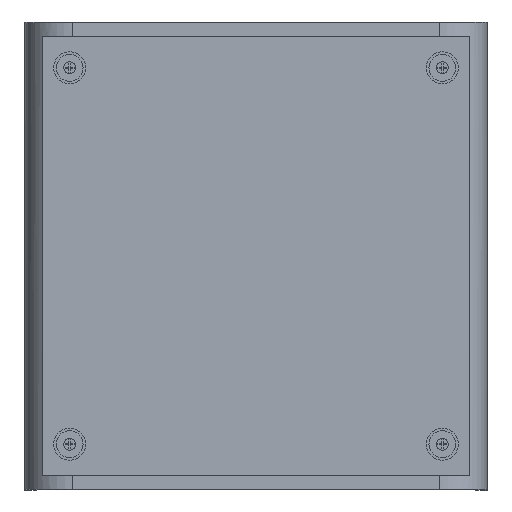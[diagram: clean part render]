
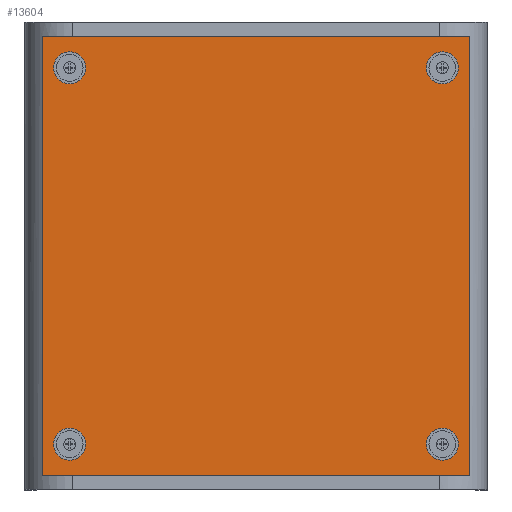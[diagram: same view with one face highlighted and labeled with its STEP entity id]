
A CAD part, front view. The second image highlights one B-rep face of the part: STEP entity #13604.
In plain terms, the highlighted planar face has unit normal (0, -1, 0).
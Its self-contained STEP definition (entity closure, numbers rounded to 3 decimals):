
#335 = FACE_BOUND ( 'NONE', #6173, .T. ) ;
#478 = CARTESIAN_POINT ( 'NONE',  ( -71.75, -35.5, 73.5 ) ) ;
#1108 = CARTESIAN_POINT ( 'NONE',  ( 62.525, -35.5, -63.125 ) ) ;
#1210 = CARTESIAN_POINT ( 'NONE',  ( -71.75, -35.5, -73.5 ) ) ;
#2225 = ORIENTED_EDGE ( 'NONE', *, *, #8759, .F. ) ;
#2299 = DIRECTION ( 'NONE',  ( 0., -1., 0. ) ) ;
#2539 = VERTEX_POINT ( 'NONE', #16618 ) ;
#2917 = DIRECTION ( 'NONE',  ( 0., 0., 1. ) ) ;
#3104 = CIRCLE ( 'NONE', #9706, 5.375 ) ;
#3151 = CARTESIAN_POINT ( 'NONE',  ( 62.525, -35.5, 68.5 ) ) ;
#3456 = CARTESIAN_POINT ( 'NONE',  ( 62.525, -35.5, 57.75 ) ) ;
#3921 = EDGE_LOOP ( 'NONE', ( #16689, #8893 ) ) ;
#4343 = CIRCLE ( 'NONE', #16237, 5.375 ) ;
#4437 = CARTESIAN_POINT ( 'NONE',  ( 62.525, -35.5, 63.125 ) ) ;
#4444 = ORIENTED_EDGE ( 'NONE', *, *, #5673, .F. ) ;
#4713 = VECTOR ( 'NONE', #10633, 1000. ) ;
#4806 = CARTESIAN_POINT ( 'NONE',  ( -62.525, -35.5, 63.125 ) ) ;
#4906 = VECTOR ( 'NONE', #10974, 1000. ) ;
#5180 = FACE_BOUND ( 'NONE', #9841, .T. ) ;
#5240 = DIRECTION ( 'NONE',  ( 0., 1., 0. ) ) ;
#5255 = LINE ( 'NONE', #17825, #4713 ) ;
#5458 = EDGE_CURVE ( 'NONE', #16799, #16684, #15736, .T. ) ;
#5673 = EDGE_CURVE ( 'NONE', #23021, #10319, #15454, .T. ) ;
#5712 = CARTESIAN_POINT ( 'NONE',  ( 71.75, -35.5, -73.5 ) ) ;
#6099 = CIRCLE ( 'NONE', #18549, 5.375 ) ;
#6173 = EDGE_LOOP ( 'NONE', ( #16119, #15133 ) ) ;
#6229 = DIRECTION ( 'NONE',  ( 0., 0., 1. ) ) ;
#6273 = ORIENTED_EDGE ( 'NONE', *, *, #15498, .F. ) ;
#6456 = DIRECTION ( 'NONE',  ( 0., -1., 0. ) ) ;
#6508 = ORIENTED_EDGE ( 'NONE', *, *, #5458, .F. ) ;
#6764 = DIRECTION ( 'NONE',  ( 0., -1., 0. ) ) ;
#7343 = CARTESIAN_POINT ( 'NONE',  ( -62.525, -35.5, -68.5 ) ) ;
#7467 = CIRCLE ( 'NONE', #21662, 5.375 ) ;
#7515 = DIRECTION ( 'NONE',  ( 1., 0., 0. ) ) ;
#7592 = ORIENTED_EDGE ( 'NONE', *, *, #9450, .F. ) ;
#7717 = CARTESIAN_POINT ( 'NONE',  ( -62.525, -35.5, 57.75 ) ) ;
#8032 = DIRECTION ( 'NONE',  ( 0., -1., 0. ) ) ;
#8268 = AXIS2_PLACEMENT_3D ( 'NONE', #17543, #6764, #19374 ) ;
#8742 = CARTESIAN_POINT ( 'NONE',  ( 62.525, -35.5, 63.125 ) ) ;
#8759 = EDGE_CURVE ( 'NONE', #10424, #2539, #7467, .T. ) ;
#8893 = ORIENTED_EDGE ( 'NONE', *, *, #18322, .F. ) ;
#9350 = CARTESIAN_POINT ( 'NONE',  ( 62.525, -35.5, -68.5 ) ) ;
#9450 = EDGE_CURVE ( 'NONE', #12828, #23021, #19285, .T. ) ;
#9488 = EDGE_CURVE ( 'NONE', #2539, #10424, #4343, .T. ) ;
#9686 = CARTESIAN_POINT ( 'NONE',  ( 62.525, -35.5, -63.125 ) ) ;
#9706 = AXIS2_PLACEMENT_3D ( 'NONE', #9686, #22316, #11502 ) ;
#9841 = EDGE_LOOP ( 'NONE', ( #10297, #2225 ) ) ;
#9967 = VERTEX_POINT ( 'NONE', #16000 ) ;
#10297 = ORIENTED_EDGE ( 'NONE', *, *, #9488, .F. ) ;
#10319 = VERTEX_POINT ( 'NONE', #13124 ) ;
#10424 = VERTEX_POINT ( 'NONE', #7717 ) ;
#10495 = FACE_BOUND ( 'NONE', #3921, .T. ) ;
#10633 = DIRECTION ( 'NONE',  ( -1., 0., 0. ) ) ;
#10724 = VERTEX_POINT ( 'NONE', #12410 ) ;
#10974 = DIRECTION ( 'NONE',  ( 0., 0., 1. ) ) ;
#11502 = DIRECTION ( 'NONE',  ( 0., 0., 1. ) ) ;
#11865 = VERTEX_POINT ( 'NONE', #19985 ) ;
#12410 = CARTESIAN_POINT ( 'NONE',  ( 62.525, -35.5, -57.75 ) ) ;
#12620 = EDGE_CURVE ( 'NONE', #11865, #14340, #6099, .T. ) ;
#12828 = VERTEX_POINT ( 'NONE', #1210 ) ;
#12987 = AXIS2_PLACEMENT_3D ( 'NONE', #8742, #2299, #21361 ) ;
#13124 = CARTESIAN_POINT ( 'NONE',  ( 71.75, -35.5, 73.5 ) ) ;
#13506 = EDGE_CURVE ( 'NONE', #14340, #11865, #22395, .T. ) ;
#13604 = ADVANCED_FACE ( 'NONE', ( #335, #10495, #14773, #5180, #19011 ), #23173, .F. ) ;
#13737 = DIRECTION ( 'NONE',  ( 0., -1., 0. ) ) ;
#14226 = AXIS2_PLACEMENT_3D ( 'NONE', #1108, #13737, #2917 ) ;
#14340 = VERTEX_POINT ( 'NONE', #7343 ) ;
#14634 = DIRECTION ( 'NONE',  ( 0., -1., 0. ) ) ;
#14773 = FACE_OUTER_BOUND ( 'NONE', #19188, .T. ) ;
#14882 = VECTOR ( 'NONE', #7515, 1000. ) ;
#14907 = VERTEX_POINT ( 'NONE', #9350 ) ;
#14960 = VECTOR ( 'NONE', #21962, 1000. ) ;
#15088 = EDGE_LOOP ( 'NONE', ( #19094, #6508 ) ) ;
#15133 = ORIENTED_EDGE ( 'NONE', *, *, #13506, .F. ) ;
#15430 = CIRCLE ( 'NONE', #14226, 5.375 ) ;
#15454 = LINE ( 'NONE', #16496, #14882 ) ;
#15498 = EDGE_CURVE ( 'NONE', #10319, #9967, #18637, .T. ) ;
#15736 = CIRCLE ( 'NONE', #12987, 5.375 ) ;
#16000 = CARTESIAN_POINT ( 'NONE',  ( 71.75, -35.5, -73.5 ) ) ;
#16043 = CARTESIAN_POINT ( 'NONE',  ( 0., -35.5, 0. ) ) ;
#16119 = ORIENTED_EDGE ( 'NONE', *, *, #12620, .F. ) ;
#16237 = AXIS2_PLACEMENT_3D ( 'NONE', #17236, #6456, #19067 ) ;
#16294 = CIRCLE ( 'NONE', #17766, 5.375 ) ;
#16496 = CARTESIAN_POINT ( 'NONE',  ( -71.75, -35.5, 73.5 ) ) ;
#16618 = CARTESIAN_POINT ( 'NONE',  ( -62.525, -35.5, 68.5 ) ) ;
#16684 = VERTEX_POINT ( 'NONE', #3151 ) ;
#16689 = ORIENTED_EDGE ( 'NONE', *, *, #18705, .F. ) ;
#16799 = VERTEX_POINT ( 'NONE', #3456 ) ;
#17011 = DIRECTION ( 'NONE',  ( 0., -1., 0. ) ) ;
#17236 = CARTESIAN_POINT ( 'NONE',  ( -62.525, -35.5, 63.125 ) ) ;
#17543 = CARTESIAN_POINT ( 'NONE',  ( -62.525, -35.5, -63.125 ) ) ;
#17766 = AXIS2_PLACEMENT_3D ( 'NONE', #4437, #17011, #6229 ) ;
#17825 = CARTESIAN_POINT ( 'NONE',  ( -71.75, -35.5, -73.5 ) ) ;
#17839 = DIRECTION ( 'NONE',  ( 0., 0., 1. ) ) ;
#18322 = EDGE_CURVE ( 'NONE', #14907, #10724, #15430, .T. ) ;
#18346 = CARTESIAN_POINT ( 'NONE',  ( -71.75, -35.5, -73.5 ) ) ;
#18385 = EDGE_CURVE ( 'NONE', #9967, #12828, #5255, .T. ) ;
#18549 = AXIS2_PLACEMENT_3D ( 'NONE', #18840, #8032, #20652 ) ;
#18637 = LINE ( 'NONE', #5712, #14960 ) ;
#18705 = EDGE_CURVE ( 'NONE', #10724, #14907, #3104, .T. ) ;
#18840 = CARTESIAN_POINT ( 'NONE',  ( -62.525, -35.5, -63.125 ) ) ;
#19011 = FACE_BOUND ( 'NONE', #15088, .T. ) ;
#19067 = DIRECTION ( 'NONE',  ( 0., 0., 1. ) ) ;
#19094 = ORIENTED_EDGE ( 'NONE', *, *, #20607, .F. ) ;
#19188 = EDGE_LOOP ( 'NONE', ( #7592, #21606, #6273, #4444 ) ) ;
#19285 = LINE ( 'NONE', #18346, #4906 ) ;
#19374 = DIRECTION ( 'NONE',  ( 0., 0., 1. ) ) ;
#19985 = CARTESIAN_POINT ( 'NONE',  ( -62.525, -35.5, -57.75 ) ) ;
#20607 = EDGE_CURVE ( 'NONE', #16684, #16799, #16294, .T. ) ;
#20652 = DIRECTION ( 'NONE',  ( 0., 0., 1. ) ) ;
#21361 = DIRECTION ( 'NONE',  ( 0., 0., 1. ) ) ;
#21606 = ORIENTED_EDGE ( 'NONE', *, *, #18385, .F. ) ;
#21662 = AXIS2_PLACEMENT_3D ( 'NONE', #4806, #14634, #22740 ) ;
#21962 = DIRECTION ( 'NONE',  ( 0., 0., -1. ) ) ;
#22316 = DIRECTION ( 'NONE',  ( 0., -1., 0. ) ) ;
#22395 = CIRCLE ( 'NONE', #8268, 5.375 ) ;
#22740 = DIRECTION ( 'NONE',  ( 0., 0., 1. ) ) ;
#22767 = AXIS2_PLACEMENT_3D ( 'NONE', #16043, #5240, #17839 ) ;
#23021 = VERTEX_POINT ( 'NONE', #478 ) ;
#23173 = PLANE ( 'NONE',  #22767 ) ;
